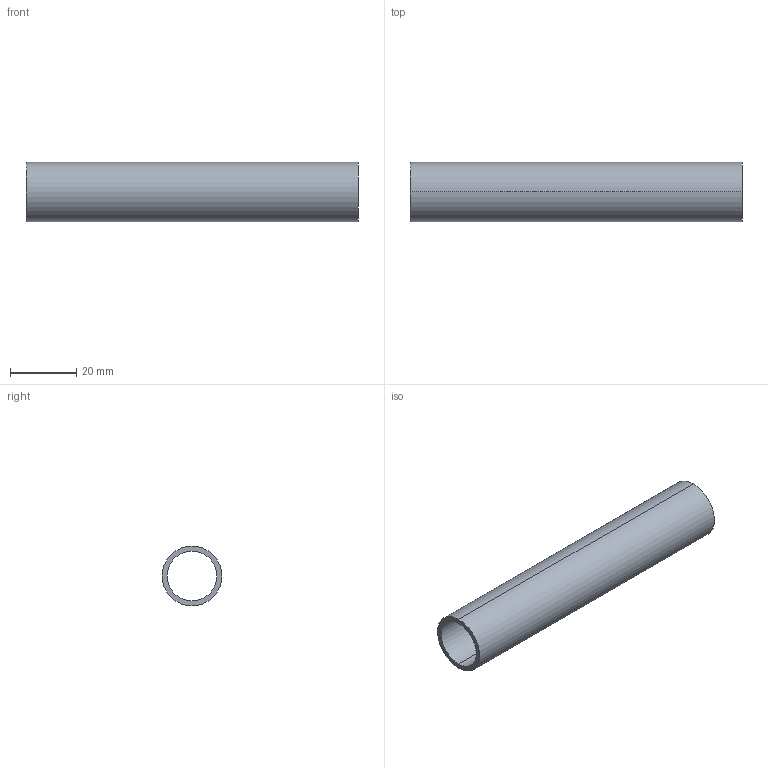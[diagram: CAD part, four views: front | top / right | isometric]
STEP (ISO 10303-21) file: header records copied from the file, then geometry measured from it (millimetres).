
FILE_DESCRIPTION (( 'STEP AP203' ), '1' );
FILE_NAME ('059.018.015.STEP', '2015-06-04T08:31:17', ( '' ), ( '' ), 'SwSTEP 2.0', 'SolidWorks 2012', '' );
FILE_SCHEMA (( 'CONFIG_CONTROL_DESIGN' ));
Length unit declared in the file: millimetre
Products named in the file (1): 059.018.015
Bounding box: 100 x 18 x 18 mm (x, y, z)
Volume: 7775.4 mm3; surface area: 10522.8 mm2
Topology: 1 solids, 1 shells, 6 faces, 12 edges, 8 vertices
Faces by surface type: cylinder 4, plane 2
Entity records: 245 total; most frequent: DIRECTION 34, CARTESIAN_POINT 27, ORIENTED_EDGE 24, AXIS2_PLACEMENT_3D 15, EDGE_CURVE 12, PERSON_AND_ORGANIZATION 8, VERTEX_POINT 8, EDGE_LOOP 8
